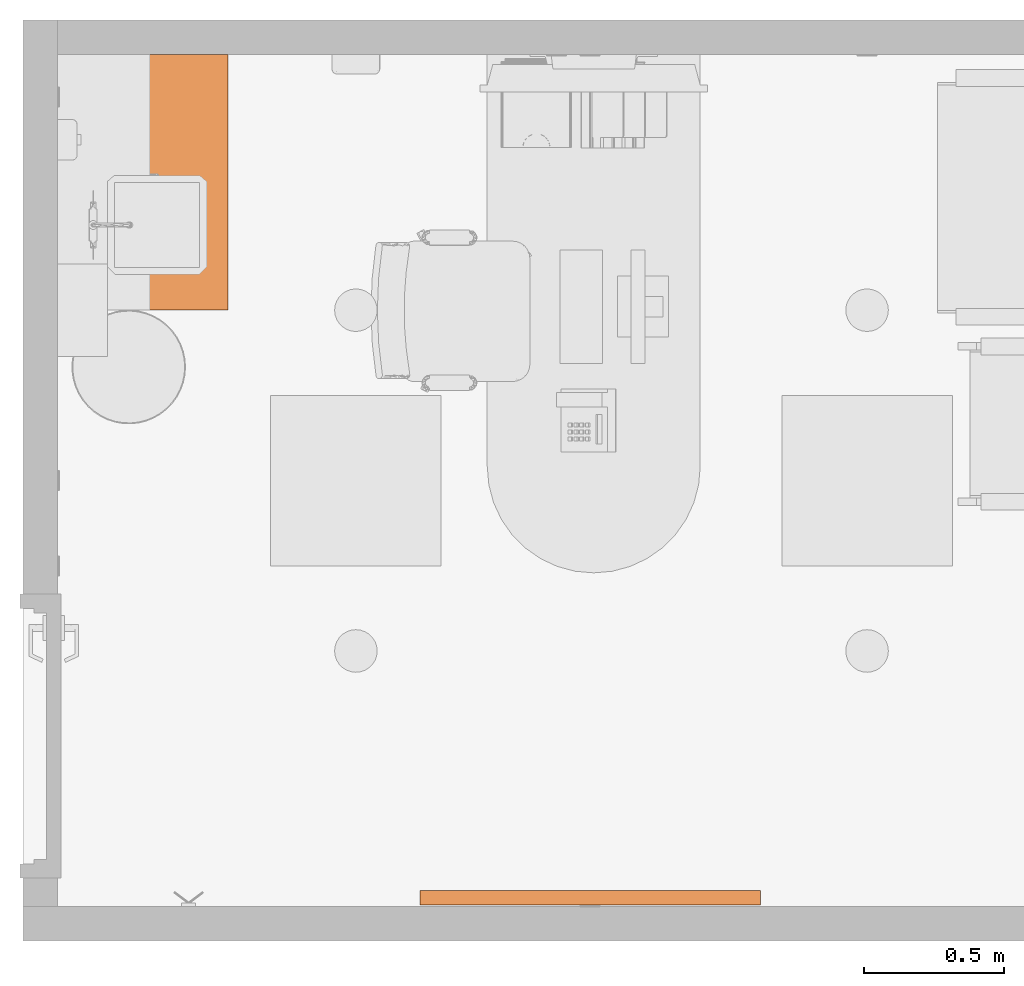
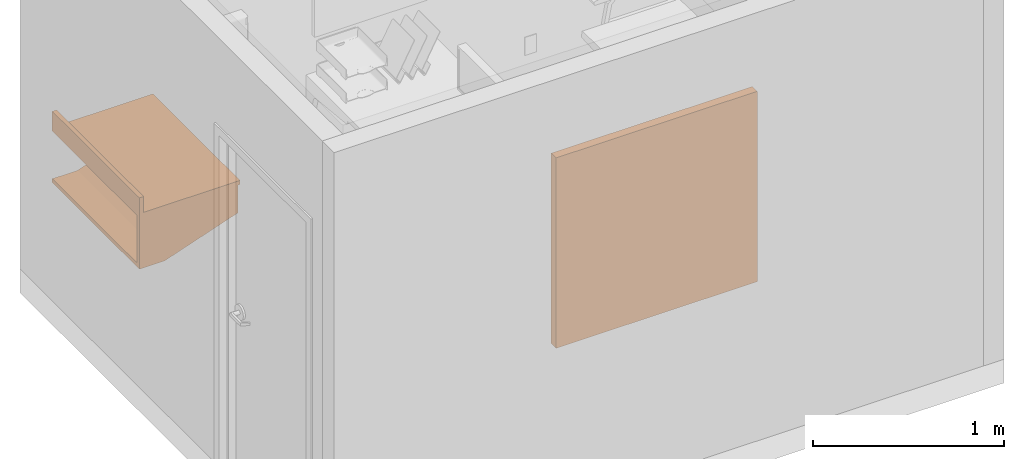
# One storey, part 7 of 10: 2 proxies.
"""IFC2X3 building model written with IfcOpenShell, lengths in feet."""

from ifc_helpers import new_model, entity, si_unit, converted_unit, derived_unit, direction, frame, origin, place, context, subcontext, project, spatial, faceted_brep, source, transform, mapped, material, material_list, type_object, type_shapes, element, save


model = new_model("IFC2X3")

# Units and contexts
model_context = context("Model", 3, precision=0.0001, world=origin(), true_north=direction((6.12303176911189e-17, 1.0)))
body_context = subcontext(model_context, "Body", "Model", "MODEL_VIEW")
ifc_project = project(units=[converted_unit("LENGTHUNIT", "FOOT", entity("IfcRatioMeasure", 0.3048), si_unit("LENGTHUNIT", "METRE"), dimensions=[1, 0, 0, 0, 0, 0, 0]), converted_unit("AREAUNIT", "SQUARE FOOT", entity("IfcRatioMeasure", 0.09290304), si_unit("AREAUNIT", "SQUARE_METRE"), dimensions=[2, 0, 0, 0, 0, 0, 0]), converted_unit("VOLUMEUNIT", "CUBIC FOOT", entity("IfcRatioMeasure", 0.028316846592), si_unit("VOLUMEUNIT", "CUBIC_METRE"), dimensions=[3, 0, 0, 0, 0, 0, 0]), converted_unit("PLANEANGLEUNIT", "DEGREE", entity("IfcRatioMeasure", 0.0174532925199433), si_unit("PLANEANGLEUNIT", "RADIAN"), dimensions=[0, 0, 0, 0, 0, 0, 0]), si_unit("MASSUNIT", "GRAM", prefix="KILO"), derived_unit("MASSDENSITYUNIT", [(si_unit("MASSUNIT", "GRAM", prefix="KILO"), 1), (si_unit("LENGTHUNIT", "METRE"), -3)]), si_unit("TIMEUNIT", "SECOND"), si_unit("FREQUENCYUNIT", "HERTZ"), si_unit("THERMODYNAMICTEMPERATUREUNIT", "DEGREE_CELSIUS"), derived_unit("THERMALTRANSMITTANCEUNIT", [(si_unit("MASSUNIT", "GRAM", prefix="KILO"), 1), (si_unit("THERMODYNAMICTEMPERATUREUNIT", "KELVIN"), -1), (si_unit("TIMEUNIT", "SECOND"), -3)]), derived_unit("VOLUMETRICFLOWRATEUNIT", [(si_unit("LENGTHUNIT", "METRE"), 3), (si_unit("TIMEUNIT", "SECOND"), -1)]), si_unit("ELECTRICCURRENTUNIT", "AMPERE"), si_unit("ELECTRICVOLTAGEUNIT", "VOLT"), si_unit("POWERUNIT", "WATT"), si_unit("FORCEUNIT", "NEWTON"), si_unit("ILLUMINANCEUNIT", "LUX"), si_unit("LUMINOUSFLUXUNIT", "LUMEN"), si_unit("LUMINOUSINTENSITYUNIT", "CANDELA"), derived_unit("USERDEFINED", [(si_unit("MASSUNIT", "GRAM", prefix="KILO"), -1), (si_unit("LENGTHUNIT", "METRE"), -2), (si_unit("TIMEUNIT", "SECOND"), 3), (si_unit("LUMINOUSFLUXUNIT", "LUMEN"), 1)]), derived_unit("LINEARVELOCITYUNIT", [(si_unit("LENGTHUNIT", "METRE"), 1), (si_unit("TIMEUNIT", "SECOND"), -1)]), si_unit("PRESSUREUNIT", "PASCAL"), derived_unit("USERDEFINED", [(si_unit("LENGTHUNIT", "METRE"), -2), (si_unit("MASSUNIT", "GRAM", prefix="KILO"), 1), (si_unit("TIMEUNIT", "SECOND"), -2)])], contexts=[model_context])

# Site, building, storey, space
site_placement = place(None, origin())
site = spatial("IfcSite", under=ifc_project, at=site_placement, Name="Default", CompositionType="ELEMENT")
building_placement = place(site_placement, origin())
building = spatial("IfcBuilding", under=site, at=building_placement, Name="OUTPATIENT / PACT CLINIC (Ch. 265)", CompositionType="ELEMENT")
storey_placement = place(building_placement, origin())
storey = spatial("IfcBuildingStorey", under=building, at=storey_placement, Name="DATUM", CompositionType="ELEMENT", Elevation=0.0)
space_placement = place(storey_placement, origin())
space = spatial("IfcSpace", under=storey, at=space_placement, Name="OFDC2", CompositionType="ELEMENT", InteriorOrExteriorSpace="INTERNAL")

# Proxies
ifc_material_1 = material(Name="Wood")
ifc_material_2 = material(Name="Plastic, Opaque White")
ifc_material_list_1 = material_list([ifc_material_1, ifc_material_2])
ifc_material_list_2 = material_list([ifc_material_1, ifc_material_2])
building_element_proxy_type_1 = type_object("IfcBuildingElementProxyType", Name="F3065 - Whiteboard/Bulletin Board, Combination", PredefinedType="NOTDEFINED", material=ifc_material_list_2)
shared_shape_1 = source(origin(), body_context, "Body", "Brep", [
    faceted_brep([(2.08333333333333, 0.0833333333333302, 0.125), (2.08333333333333, 0.083333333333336, 3.875), (2.08333333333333, 0.0416666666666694, 3.9375), (2.08333333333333, 0.041666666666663, 0.0624999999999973), (1.91666666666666, 0.0833333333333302, 0.125), (1.91666666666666, 0.041666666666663, 0.0624999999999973), (1.91666666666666, 0.0416666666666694, 3.9375), (1.91666666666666, 0.083333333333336, 3.875)], [[[0, 1, 2, 3]], [[4, 5, 6, 7]], [[4, 7, 1, 0]], [[7, 6, 2, 1]], [[6, 5, 3, 2]], [[5, 4, 0, 3]]]),
    faceted_brep([(2.0, 0.166666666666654, 3.875), (2.0, 0.0833333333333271, 3.875), (3.87499999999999, 0.0833333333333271, 3.875), (3.87499999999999, 0.166666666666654, 3.875), (2.0, 0.166666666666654, 0.125), (3.87499999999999, 0.166666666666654, 0.125), (3.87499999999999, 0.0833333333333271, 0.125), (2.0, 0.0833333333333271, 0.125)], [[[0, 1, 2, 3]], [[4, 5, 6, 7]], [[0, 3, 5, 4]], [[3, 2, 6, 5]], [[2, 1, 7, 6]], [[1, 0, 4, 7]]]),
    faceted_brep([(0.125, 0.16666666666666, 3.875), (0.125, 0.0833333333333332, 3.875), (2.0, 0.0833333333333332, 3.875), (2.0, 0.16666666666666, 3.875), (0.125, 0.16666666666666, 0.125), (2.0, 0.16666666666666, 0.125), (2.0, 0.0833333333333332, 0.125), (0.125, 0.0833333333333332, 0.125)], [[[0, 1, 2, 3]], [[4, 5, 6, 7]], [[0, 3, 5, 4]], [[3, 2, 6, 5]], [[2, 1, 7, 6]], [[1, 0, 4, 7]]]),
    faceted_brep([(0.0, 0.166666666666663, 0.0), (0.0, 0.0, 0.0), (0.0, 0.0, 4.0), (0.0, 0.166666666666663, 4.0), (0.125, 0.0833333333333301, 0.125), (0.125, 0.166666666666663, 0.125), (0.125, 0.166666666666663, 3.875), (0.125, 0.0833333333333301, 3.875), (4.0, 0.0, 4.0), (4.0, 0.166666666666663, 4.0), (3.87499999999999, 0.166666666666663, 3.875), (3.87499999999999, 0.0833333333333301, 3.875), (4.0, 0.0, 0.0), (4.0, 0.166666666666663, 0.0), (3.87499999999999, 0.166666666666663, 0.125), (3.87499999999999, 0.0833333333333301, 0.125)], [[[0, 1, 2, 3]], [[4, 5, 6, 7]], [[1, 4, 7, 2]], [[3, 2, 8, 9]], [[7, 6, 10, 11]], [[2, 7, 11, 8]], [[9, 8, 12, 13]], [[11, 10, 14, 15]], [[8, 11, 15, 12]], [[13, 12, 1, 0]], [[3, 9, 13, 0], [5, 14, 10, 6]], [[15, 14, 5, 4]], [[12, 15, 4, 1]]]),
])
type_shapes(building_element_proxy_type_1, [shared_shape_1])
proxy_1_placement = place(space_placement, frame((-70.0053643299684, -861.502950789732, 3.0), z_axis=(0.0, 0.0, 1.0), x_axis=(-1.0, 0.0, 0.0)))
element("IfcBuildingElementProxy", 1, at=proxy_1_placement, inside=space, type_object=building_element_proxy_type_1, material=ifc_material_list_1, Name="F3065 - WhiteboardBulletin Board Combination:F3065 - Whiteboard/Bulletin Board, Combination", ObjectType="F3065 - Whiteboard/Bulletin Board, Combination", context=body_context, shape_type="MappedRepresentation", body=[
    mapped(shared_shape_1, transform((0.0, 0.0, 0.0), scale=1.0)),
])
building_element_proxy_type_2 = type_object("IfcBuildingElementProxyType", Name="CT020 - Countertop, Solid Surface", PredefinedType="NOTDEFINED")
shared_shape_2 = source(origin(), body_context, "Body", "Brep", [
    faceted_brep([(-1.50000000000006, 0.874999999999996, 0.0), (-1.50000000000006, 0.958333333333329, 0.0), (-1.50000000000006, 0.958333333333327, -0.583333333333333), (-1.50000000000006, -0.500000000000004, -1.08333333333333), (-1.50000000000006, -1.0, -1.08333333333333), (-1.50000000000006, -1.0, -1.0), (-1.50000000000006, -0.500000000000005, -1.0), (-1.50000000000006, 0.874999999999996, -0.528571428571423), (1.41666666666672, 0.875, -0.528571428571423), (1.41666666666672, 0.875, 0.0), (1.50000000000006, 0.958333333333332, 0.0), (1.50000000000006, 0.958333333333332, -0.583333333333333), (1.41666666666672, -1.0, 0.0), (1.50000000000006, -1.0, 0.0), (1.41666666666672, -0.5, -1.0), (1.41666666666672, -1.0, -1.0), (1.50000000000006, -1.0, -1.08333333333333), (1.50000000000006, -0.5, -1.08333333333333)], [[[0, 1, 2, 3, 4, 5, 6, 7]], [[7, 8, 9, 0]], [[10, 11, 2, 1]], [[0, 9, 12, 13, 10, 1]], [[12, 9, 8, 14, 15]], [[13, 16, 17, 11, 10]], [[15, 5, 4, 16, 13, 12]], [[6, 14, 8, 7]], [[2, 11, 17, 3]], [[16, 4, 3, 17]], [[5, 15, 14, 6]]]),
    faceted_brep([(-1.50000000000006, -0.91666666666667, 0.416666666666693), (-1.50000000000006, -0.91666666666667, 0.0833333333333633), (-1.50000000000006, -1.0, 0.0833333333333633), (-1.50000000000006, -1.0, 0.416666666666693), (1.50000000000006, -0.916666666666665, 0.416666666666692), (1.50000000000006, -1.0, 0.416666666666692), (1.50000000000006, -1.0, 0.0833333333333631), (1.50000000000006, -0.916666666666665, 0.0833333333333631)], [[[0, 1, 2, 3]], [[4, 5, 6, 7]], [[3, 5, 4, 0]], [[2, 6, 5, 3]], [[1, 7, 6, 2]], [[0, 4, 7, 1]]]),
    faceted_brep([(1.50000000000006, -1.0, 0.0833333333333), (1.50000000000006, 1.0, 0.0833333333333), (-1.50000000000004, 1.0, 0.0833333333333), (-1.50000000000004, -1.0, 0.0833333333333), (1.50000000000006, -1.0, 0.0), (-1.50000000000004, -1.0, 0.0), (-1.50000000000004, 1.0, 0.0), (1.50000000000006, 1.0, 0.0)], [[[0, 1, 2, 3]], [[4, 5, 6, 7]], [[3, 5, 4, 0]], [[2, 6, 5, 3]], [[1, 7, 6, 2]], [[0, 4, 7, 1]]]),
    faceted_brep([(-1.5, -1.0, 0.0833333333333), (1.5, -1.0, 0.0833333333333), (1.5, 1.0, 0.0833333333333), (-1.5, 1.0, 0.0833333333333), (-1.5, 0.0, 0.0833333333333), (-1.5, -1.0, 0.0), (-1.5, 0.0, 0.0), (-1.5, 1.0, 0.0), (1.5, 1.0, 0.0), (1.5, -1.0, 0.0)], [[[0, 1, 2, 3, 4]], [[5, 6, 7, 8, 9]], [[4, 6, 5, 0]], [[3, 7, 6, 4]], [[2, 8, 7, 3]], [[1, 9, 8, 2]], [[0, 5, 9, 1]]]),
])
type_shapes(building_element_proxy_type_2, [shared_shape_2])
proxy_2_placement = place(space_placement, frame((-77.2553643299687, -853.190450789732, 3.0), z_axis=(0.0, 0.0, 1.0), x_axis=(0.0, -1.0, 0.0)))
element("IfcBuildingElementProxy", 2, at=proxy_2_placement, inside=space, type_object=building_element_proxy_type_2, Name="CT020 - Countertop, Solid Surface:CT020 - Countertop, Solid Surface", ObjectType="CT020 - Countertop, Solid Surface", context=body_context, shape_type="MappedRepresentation", body=[
    mapped(shared_shape_2, transform((0.0, 0.0, 0.0), scale=1.0)),
])

save(model, "model.ifc")
